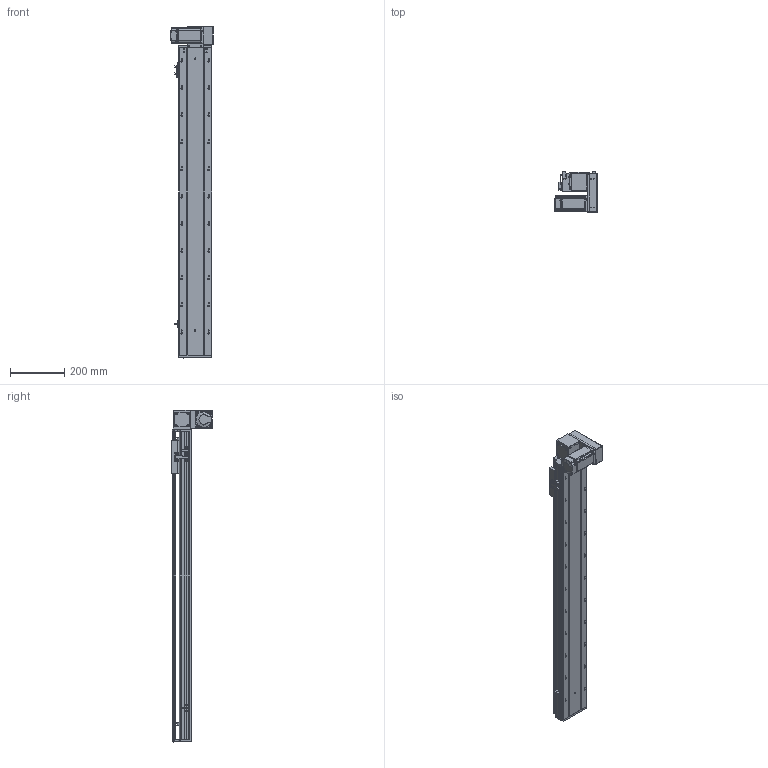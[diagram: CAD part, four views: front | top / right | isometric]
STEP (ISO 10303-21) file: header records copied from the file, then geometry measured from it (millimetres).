
FILE_DESCRIPTION (( 'STEP AP203' ), '1' );
FILE_NAME ('RY120-T-300-DR.SLDASM_900.step', '2021-03-01T03:35:34', ( '盈信电脑' ), ( '东莞市道滘镇水果街19号' ), 'SwSTEP 2.0', 'SolidWorks 2012', '' );
FILE_SCHEMA (( 'CONFIG_CONTROL_DESIGN' ));
Length unit declared in the file: millimetre
Products named in the file (17): RY120-T-300-DR倰第奻裔啣_900; RY120-T-300-DR倰第菁釱_900; RY120綴裔啣; RY120肮祭湍臏賑輸; RY120-T主同步轮轴承压盖; RY120-T萇儂欶; RY120-T蹟翐M4; RY120-T-300-DR.SLDASM_900; 滅袉蝶18-10; RY120-T萇儂假蚾啣; 15; RY120-T翋肮祭謫裔啣; RY120-T肮祭湍揤踡輸1; RY120外置感应片(140共用）; RY120-T肮祭湍揤踡輸2; RY120-T翋肮祭盓傅釱; 覜茼ん672
Assembly tree (22 placements, depth 2):
  RY120-T-300-DR.SLDASM_900
    RY120-T-300-DR倰第菁釱_900
    RY120-T-300-DR倰第奻裔啣_900
    RY120肮祭湍臏賑輸
    RY120綴裔啣
    覜茼ん672  x3
    RY120外置感应片(140共用）
    RY120-T肮祭湍揤踡輸1
    RY120-T肮祭湍揤踡輸2
    RY120-T翋肮祭盓傅釱
    滅袉蝶18-10  x2
    RY120-T翋肮祭謫裔啣
    15
    RY120-T萇儂假蚾啣
    RY120-T蹟翐M4  x4
    RY120-T萇儂欶
    RY120-T主同步轮轴承压盖
Bounding box: 155.5 x 150 x 1221 mm (x, y, z)
Volume: 3391002.2 mm3; surface area: 1265667.4 mm2
Topology: 23 solids, 23 shells, 2972 faces, 8168 edges, 5252 vertices
Faces by surface type: plane 1452, cylinder 1178, cone 253, bspline 89
Entity records: 96521 total; most frequent: CARTESIAN_POINT 25618, ORIENTED_EDGE 14768, DIRECTION 13750, EDGE_CURVE 7384, VERTEX_POINT 4839, AXIS2_PLACEMENT_3D 4631, VECTOR 4488, LINE 4488
